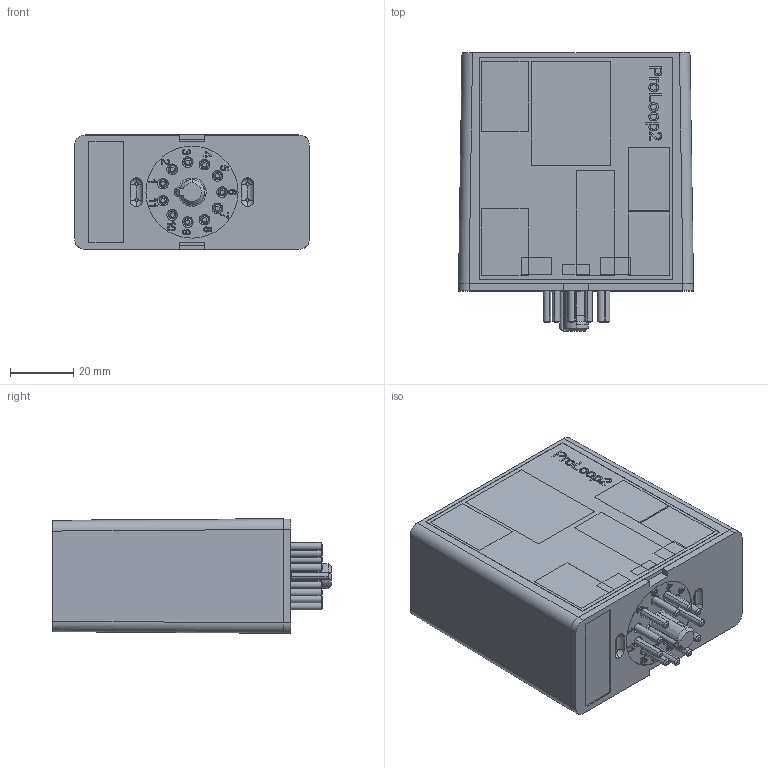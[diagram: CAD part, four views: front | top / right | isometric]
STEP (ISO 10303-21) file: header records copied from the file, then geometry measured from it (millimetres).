
FILE_DESCRIPTION (( 'STEP AP214' ), '1' );
FILE_NAME ('00006677_2.STEP', '2020-01-09T08:07:31', ( '' ), ( '' ), 'SwSTEP 2.0', 'SolidWorks 2017', '' );
FILE_SCHEMA (( 'AUTOMOTIVE_DESIGN' ));
Length unit declared in the file: millimetre
Products named in the file (2): 00006677_2
Bounding box: 74.01 x 87.7 x 36.11 mm (x, y, z)
Surface area: 27970.7 mm2 (no closed solid volume)
Topology: 0 solids, 26 shells, 409 faces, 1398 edges, 1006 vertices
Faces by surface type: plane 190, bspline 86, cylinder 63, cone 56, torus 14
Entity records: 26009 total; most frequent: CARTESIAN_POINT 10307, ORIENTED_EDGE 2264, DIRECTION 1947, EDGE_CURVE 1398, VERTEX_POINT 1006, LINE 815, VECTOR 815, AXIS2_PLACEMENT_3D 566
